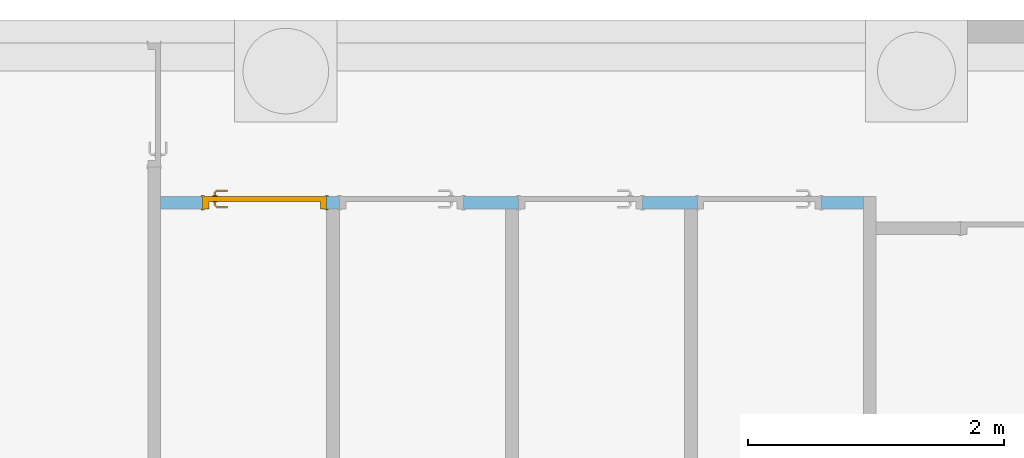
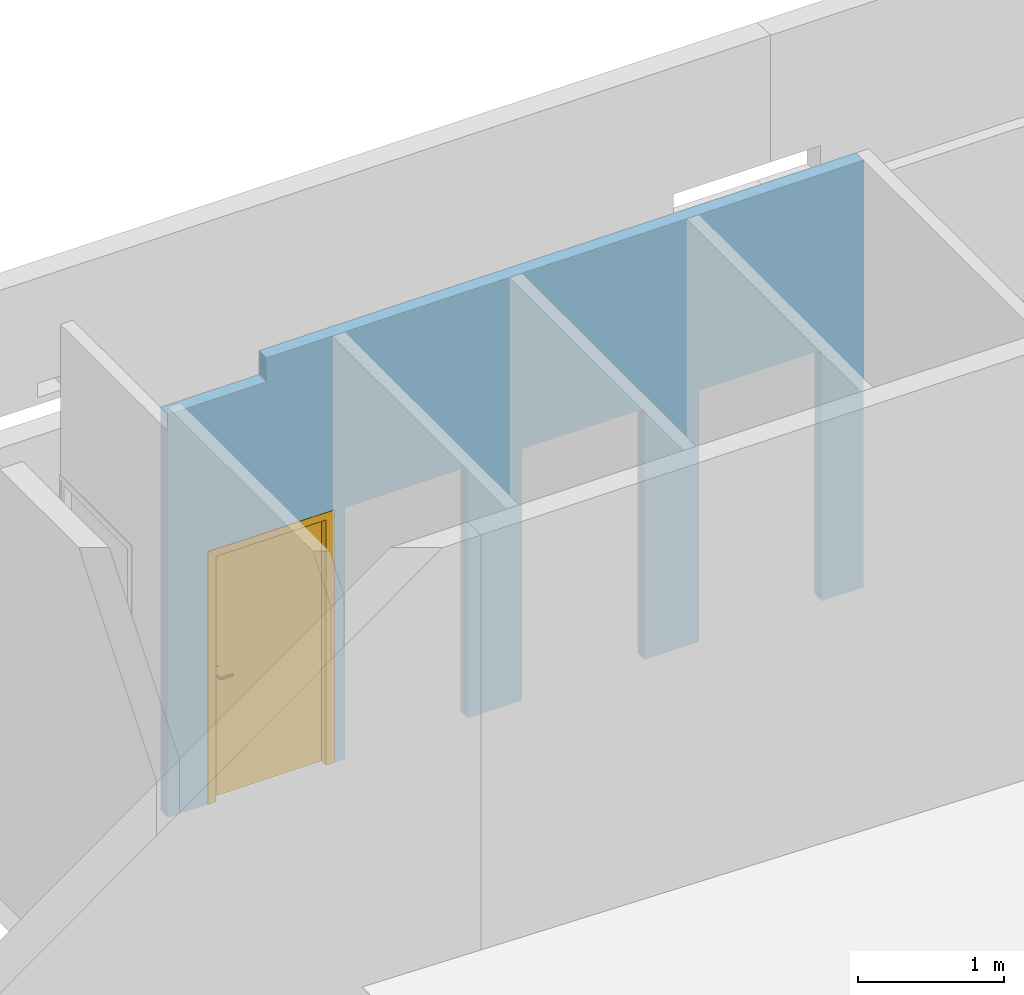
# One storey, part 5 of 14: 1 door, 4 openings, plus 1 element that does not belong to this part.
"""IFC2X3 building model written with IfcOpenShell, lengths in centimetres."""

from ifc_helpers import new_model, entity, si_unit, converted_unit, derived_unit, direction, frame, frame_2d, origin, place, context, subcontext, project, spatial, polyline, rectangle, extrude, clip, bounded_halfspace, faceted_brep, source, transform, mapped, material, material_list, layer, layer_set, layer_usage, type_object, type_shapes, element, fill, save


model = new_model("IFC2X3")

# Units and contexts
model_context = context("Model", 3, precision=0.001, world=origin(), true_north=direction((6.12303176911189e-17, 1.0)))
body_context = subcontext(model_context, "Body", "Model", "MODEL_VIEW")
ifc_project = project(units=[si_unit("LENGTHUNIT", "METRE", prefix="CENTI"), si_unit("AREAUNIT", "SQUARE_METRE"), si_unit("VOLUMEUNIT", "CUBIC_METRE"), converted_unit("PLANEANGLEUNIT", "DEGREE", entity("IfcRatioMeasure", 0.0174532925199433), si_unit("PLANEANGLEUNIT", "RADIAN"), dimensions=[0, 0, 0, 0, 0, 0, 0]), si_unit("MASSUNIT", "GRAM", prefix="KILO"), derived_unit("MASSDENSITYUNIT", [(si_unit("MASSUNIT", "GRAM", prefix="KILO"), 1), (si_unit("LENGTHUNIT", "METRE"), -3)]), si_unit("TIMEUNIT", "SECOND"), si_unit("FREQUENCYUNIT", "HERTZ"), si_unit("THERMODYNAMICTEMPERATUREUNIT", "DEGREE_CELSIUS"), derived_unit("THERMALTRANSMITTANCEUNIT", [(si_unit("MASSUNIT", "GRAM", prefix="KILO"), 1), (si_unit("THERMODYNAMICTEMPERATUREUNIT", "KELVIN"), -1), (si_unit("TIMEUNIT", "SECOND"), -3)]), derived_unit("VOLUMETRICFLOWRATEUNIT", [(si_unit("LENGTHUNIT", "METRE"), 3), (si_unit("TIMEUNIT", "SECOND"), -1)]), si_unit("ELECTRICCURRENTUNIT", "AMPERE"), si_unit("ELECTRICVOLTAGEUNIT", "VOLT"), si_unit("POWERUNIT", "WATT"), si_unit("FORCEUNIT", "NEWTON"), si_unit("ILLUMINANCEUNIT", "LUX"), si_unit("LUMINOUSFLUXUNIT", "LUMEN"), si_unit("LUMINOUSINTENSITYUNIT", "CANDELA"), derived_unit("USERDEFINED", [(si_unit("MASSUNIT", "GRAM", prefix="KILO"), -1), (si_unit("LENGTHUNIT", "METRE"), -2), (si_unit("TIMEUNIT", "SECOND"), 3), (si_unit("LUMINOUSFLUXUNIT", "LUMEN"), 1)]), derived_unit("LINEARVELOCITYUNIT", [(si_unit("LENGTHUNIT", "METRE"), 1), (si_unit("TIMEUNIT", "SECOND"), -1)]), si_unit("PRESSUREUNIT", "PASCAL"), derived_unit("USERDEFINED", [(si_unit("LENGTHUNIT", "METRE"), -2), (si_unit("MASSUNIT", "GRAM", prefix="KILO"), 1), (si_unit("TIMEUNIT", "SECOND"), -2)])], contexts=[model_context])

# Site, building, storey
site_placement = place(None, origin())
site = spatial("IfcSite", under=ifc_project, at=site_placement, Name="Default", CompositionType="ELEMENT")
building_placement = place(site_placement, origin())
building = spatial("IfcBuilding", under=site, at=building_placement, Name="CAGE 03", CompositionType="ELEMENT")
storey_placement = place(building_placement, frame((0.0, 0.0, -42.0)))
storey = spatial("IfcBuildingStorey", under=building, at=storey_placement, Name="+3.58", CompositionType="ELEMENT", Elevation=-42.0000000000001)

# Wall, openings, door
ifc_material_1 = material(Name="Bloc béton")
ifc_layer = layer(ifc_material_1, 10.0)
ifc_layer_set = layer_set([ifc_layer], Name="Mur de base:Int. Parpaing 100 mm")
ifc_layer_usage = layer_usage(ifc_layer_set, "AXIS2", "NEGATIVE", 5.0)
wall_type = type_object("IfcWallType", Name="Mur de base:Int. Parpaing 100 mm", PredefinedType="STANDARD", material=ifc_layer_set)
wall_placement = place(storey_placement, frame((9206.36582014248, 5150.66066607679, 0.0)))
wall = element("IfcWallStandardCase", 1, at=wall_placement, inside=storey, type_object=wall_type, material=ifc_layer_usage, Name="Mur de base:Int. Parpaing 100 mm", ObjectType="Mur de base:Int. Parpaing 100 mm", context=body_context, shape_type="Clipping", body=[
    clip(clip(extrude(rectangle(XDim=549.999999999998, YDim=9.99999999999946, at=frame_2d((274.999999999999, 4.04121180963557e-14), x_axis=(-1.0, 0.0))), origin(), (0.0, 0.0, 1.0), 357.0), bounded_halfspace(frame((78.0, -5.0, 337.0), z_axis=(0.0, 0.0, -1.0), x_axis=(0.0, -1.0, 0.0)), True, frame((78.0, -5.0, 337.0), z_axis=(0.0, 0.0, -1.0), x_axis=(0.0, -1.0, 0.0)), polyline([(0.0, 0.0), (0.0, 78.0), (-10.0, 78.0), (-10.0, 0.0), (0.0, 0.0)]))), bounded_halfspace(frame((78.0, 5.0, 337.0), z_axis=(1.0, 0.0, 0.0), x_axis=(0.0, 0.0, 1.0)), True, frame((78.0, 5.0, 337.0), z_axis=(1.0, 0.0, 0.0), x_axis=(0.0, 0.0, 1.0)), polyline([(0.0, 0.0), (20.0, 0.0), (20.0, 10.0), (0.0, 10.0), (0.0, 0.0)]))),
])
opening_1_placement = place(wall_placement, frame((420.0, -5.0, 0.0)))
element("IfcOpeningElement", 2, at=opening_1_placement, cuts=wall, Name="Int. Simple:HB93:1", ObjectType="Opening", context=body_context, shape_type="SweptSolid", body=[
    extrude(rectangle(XDim=210.000000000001, YDim=96.9999999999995, at=frame_2d((105.000000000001, 48.4999999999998), x_axis=(1.0, 0.0))), frame((0.0, 0.0, 0.0), z_axis=(0.0, 1.0, 0.0), x_axis=(0.0, 0.0, 1.0)), (0.0, 0.0, 1.0), 10.0),
])
opening_2_placement = place(wall_placement, frame((280.0, -5.0, 0.0)))
element("IfcOpeningElement", 3, at=opening_2_placement, cuts=wall, Name="Int. Simple:HB93:1", ObjectType="Opening", context=body_context, shape_type="SweptSolid", body=[
    extrude(rectangle(XDim=210.000000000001, YDim=96.9999999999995, at=frame_2d((105.000000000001, 48.4999999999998), x_axis=(1.0, 0.0))), frame((0.0, 0.0, 0.0), z_axis=(0.0, 1.0, 0.0), x_axis=(0.0, 0.0, 1.0)), (0.0, 0.0, 1.0), 10.0),
])
opening_3_placement = place(wall_placement, frame((33.0, -5.0, 0.0)))
opening_3 = element("IfcOpeningElement", 4, at=opening_3_placement, cuts=wall, Name="Int. Simple:HB93:1", ObjectType="Opening", context=body_context, shape_type="SweptSolid", body=[
    extrude(rectangle(XDim=210.000000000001, YDim=96.9999999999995, at=frame_2d((105.000000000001, 48.4999999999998), x_axis=(1.0, 0.0))), frame((0.0, 0.0, 0.0), z_axis=(0.0, 1.0, 0.0), x_axis=(0.0, 0.0, 1.0)), (0.0, 0.0, 1.0), 10.0),
])
opening_4_placement = place(wall_placement, frame((140.0, -5.0, 0.0)))
element("IfcOpeningElement", 5, at=opening_4_placement, cuts=wall, Name="Int. Simple:HB93:1", ObjectType="Opening", context=body_context, shape_type="SweptSolid", body=[
    extrude(rectangle(XDim=210.000000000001, YDim=96.9999999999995, at=frame_2d((105.000000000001, 48.4999999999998), x_axis=(1.0, 0.0))), frame((0.0, 0.0, 0.0), z_axis=(0.0, 1.0, 0.0), x_axis=(0.0, 0.0, 1.0)), (0.0, 0.0, 1.0), 10.0),
])
ifc_material_2 = material(Name="Finition Peinture - Blanc satiné")
ifc_material_3 = material(Name="Bois - Panneau de porte")
ifc_material_4 = material(Name="Bois - Cadre de porte")
ifc_material_list_1 = material_list([ifc_material_2, ifc_material_3, ifc_material_4])
ifc_material_list_2 = material_list([ifc_material_2, ifc_material_3, ifc_material_4])
door_style = type_object("IfcDoorStyle", Name="HB93", ConstructionType="NOTDEFINED", OperationType="SINGLE_SWING_RIGHT", ParameterTakesPrecedence=False, Sizeable=False, material=ifc_material_list_2)
shared_shape = source(origin(), body_context, "Body", "Brep", [
    faceted_brep([(96.5000000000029, -0.500000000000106, 87.0), (96.5000000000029, -0.500000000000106, 108.0), (95.535276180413, -0.500000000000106, 108.399601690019), (94.5000000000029, -0.500000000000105, 108.535898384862), (93.4647238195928, -0.500000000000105, 108.399601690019), (92.5000000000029, -0.500000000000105, 108.0), (92.5000000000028, -0.500000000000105, 87.0), (93.4647238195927, -0.500000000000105, 86.6003983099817), (94.5000000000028, -0.500000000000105, 86.464101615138), (95.5352761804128, -0.500000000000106, 86.6003983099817), (96.5000000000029, 0.0, 108.0), (96.5000000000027, 0.0, 87.0), (95.5352761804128, 0.0, 86.6003983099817), (94.5000000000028, 0.0, 86.464101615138), (93.4647238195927, 0.0, 86.6003983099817), (92.5000000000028, 0.0, 87.0), (92.5000000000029, 0.0, 108.0), (93.4647238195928, 0.0, 108.399601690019), (94.5000000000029, 0.0, 108.535898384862), (95.535276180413, 0.0, 108.399601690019)], [[[0, 1, 2, 3, 4, 5, 6, 7, 8, 9]], [[10, 11, 12, 13, 14, 15, 16, 17, 18, 19]], [[9, 12, 11, 0]], [[8, 13, 12, 9]], [[7, 14, 13, 8]], [[7, 6, 15, 14]], [[15, 6, 5, 16]], [[4, 17, 16, 5]], [[3, 18, 17, 4]], [[2, 19, 18, 3]], [[2, 1, 10, 19]], [[11, 10, 1, 0]]]),
    faceted_brep([(96.5000000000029, 4.0, 87.0), (96.5000000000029, 4.0, 108.0), (95.535276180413, 4.0, 108.399601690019), (94.5000000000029, 4.0, 108.535898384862), (93.4647238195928, 4.0, 108.399601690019), (92.500000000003, 4.0, 108.0), (92.5000000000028, 4.0, 87.0), (93.4647238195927, 4.0, 86.6003983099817), (94.5000000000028, 4.0, 86.464101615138), (95.5352761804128, 4.0, 86.6003983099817), (94.5000000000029, 4.49999999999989, 108.535898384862), (95.535276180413, 4.49999999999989, 108.399601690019), (96.5000000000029, 4.49999999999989, 108.0), (96.5000000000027, 4.49999999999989, 87.0), (95.5352761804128, 4.49999999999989, 86.6003983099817), (94.5000000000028, 4.49999999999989, 86.464101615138), (93.4647238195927, 4.49999999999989, 86.6003983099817), (92.5000000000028, 4.49999999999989, 87.0), (92.5000000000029, 4.49999999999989, 108.0), (93.4647238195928, 4.49999999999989, 108.399601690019)], [[[0, 1, 2, 3, 4, 5, 6, 7, 8, 9]], [[10, 11, 12, 13, 14, 15, 16, 17, 18, 19]], [[4, 19, 18, 5]], [[3, 10, 19, 4]], [[2, 11, 10, 3]], [[2, 1, 12, 11]], [[13, 12, 1, 0]], [[9, 14, 13, 0]], [[8, 15, 14, 9]], [[7, 16, 15, 8]], [[7, 6, 17, 16]], [[17, 6, 5, 18]]]),
    faceted_brep([(94.2974701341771, -0.50000000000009, 100.778044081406), (94.7025298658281, -0.500000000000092, 100.778044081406), (95.100000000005, -0.500000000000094, 100.699999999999), (95.100000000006, -0.500000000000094, 99.2999999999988), (94.7025298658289, -0.500000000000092, 99.221955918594), (94.297470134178, -0.50000000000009, 99.2219559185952), (93.9000000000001, -0.500000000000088, 99.3000000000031), (93.9000000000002, -0.500000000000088, 100.7), (94.7025298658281, -3.10045754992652, 100.778044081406), (95.1000000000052, -3.26509507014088, 100.7), (94.2974701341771, -2.93267631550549, 100.778044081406), (92.9298602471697, -4.30028620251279, 100.778044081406), (93.0976414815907, -4.70534593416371, 100.778044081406), (93.9000000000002, -2.76803879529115, 100.7), (93.9000000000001, -2.76803879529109, 99.3000000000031), (94.297470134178, -2.93267631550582, 99.2219559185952), (94.7025298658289, -3.10045754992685, 99.221955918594), (93.0976414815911, -4.70534593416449, 99.221955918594), (92.9298602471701, -4.30028620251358, 99.2219559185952), (95.100000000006, -3.26509507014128, 99.2999999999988), (93.2622790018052, -5.1028160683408, 100.7), (92.7652227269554, -3.90281606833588, 100.7), (92.7652227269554, -3.90281606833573, 99.3000000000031), (93.2622790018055, -5.10281606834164, 99.2999999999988), (84.4981359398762, -5.10281606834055, 100.7), (84.4981359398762, -4.70534593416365, 100.778044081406), (84.4981359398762, -4.30028620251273, 100.778044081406), (84.4981359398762, -3.90281606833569, 100.699999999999), (84.4981359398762, -3.90281606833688, 99.3000000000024), (84.4981359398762, -4.30028620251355, 99.2219559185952), (84.4981359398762, -4.70534593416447, 99.221955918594), (84.4981359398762, -5.10281606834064, 99.2999999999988), (88.7139980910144, -4.5028160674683, 100.78786867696), (89.2692302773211, -5.1028160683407, 100.7), (88.6316793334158, -3.9028160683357, 100.7), (88.631679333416, -3.90281606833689, 99.3000000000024), (88.7139981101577, -4.50281607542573, 99.2121313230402), (89.2692310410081, -5.10281606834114, 99.2999999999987)], [[[0, 1, 2, 3, 4, 5, 6, 7]], [[2, 1, 8, 9]], [[1, 0, 10, 11, 12, 8]], [[0, 7, 13, 10]], [[14, 13, 7, 6]], [[5, 15, 14, 6]], [[5, 4, 16, 17, 18, 15]], [[3, 19, 16, 4]], [[9, 19, 3, 2]], [[9, 8, 12, 20]], [[10, 13, 21, 11]], [[22, 21, 13, 14]], [[14, 15, 18, 22]], [[16, 19, 23, 17]], [[20, 23, 19, 9]], [[24, 25, 26, 27, 28, 29, 30, 31]], [[32, 25, 33]], [[33, 25, 24]], [[33, 20, 12]], [[11, 34, 32]], [[34, 11, 21]], [[27, 26, 34]], [[32, 26, 25]], [[32, 34, 26]], [[32, 33, 12]], [[11, 32, 12]], [[21, 22, 35, 28, 27, 34]], [[36, 29, 35]], [[30, 36, 37]], [[18, 35, 22]], [[29, 28, 35]], [[30, 37, 31]], [[37, 17, 23]], [[36, 17, 37]], [[36, 18, 17]], [[36, 35, 18]], [[29, 36, 30]], [[23, 20, 33, 24, 31, 37]]]),
    faceted_brep([(94.2974701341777, 4.49999999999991, 99.2219559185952), (94.7025298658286, 4.49999999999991, 99.221955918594), (95.1000000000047, 4.4999999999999, 99.2999999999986), (95.1000000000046, 4.4999999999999, 100.7), (94.7025298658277, 4.49999999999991, 100.778044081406), (94.2974701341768, 4.49999999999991, 100.778044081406), (93.8999999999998, 4.49999999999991, 100.7), (93.900000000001, 4.49999999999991, 99.3000000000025), (93.8999999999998, 6.7485204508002, 100.7), (93.8999999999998, 6.74852045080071, 99.3000000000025), (94.2974701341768, 6.91315797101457, 100.778044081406), (94.7025298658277, 7.0809392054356, 100.778044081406), (93.0838906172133, 8.69957845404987, 100.778044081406), (92.9161093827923, 8.29451872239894, 100.778044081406), (95.1000000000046, 7.24557672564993, 100.7), (95.1000000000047, 7.24557672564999, 99.2999999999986), (94.7025298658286, 7.08093920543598, 99.221955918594), (94.2974701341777, 6.91315797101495, 99.2219559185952), (92.9161093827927, 8.29451872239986, 99.2219559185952), (93.0838906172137, 8.69957845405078, 99.221955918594), (92.751471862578, 7.89704858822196, 100.7), (92.7514718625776, 7.89704858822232, 99.3000000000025), (93.2485281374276, 9.09704858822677, 100.7), (93.2485281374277, 9.09704858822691, 99.2999999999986), (84.4954216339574, 8.29451872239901, 100.778044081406), (84.4954216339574, 8.69957845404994, 100.778044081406), (84.4954216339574, 9.09704858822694, 100.7), (84.4954216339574, 9.09704858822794, 99.2999999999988), (84.4954216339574, 8.6995784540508, 99.221955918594), (84.4954216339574, 8.29451872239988, 99.2219559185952), (84.4954216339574, 7.89704858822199, 99.3000000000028), (84.4954216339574, 7.89704858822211, 100.7), (88.6234467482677, 7.89704858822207, 100.7), (88.6234479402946, 7.89704858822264, 99.3000000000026), (88.7057655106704, 8.49704858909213, 100.78786867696), (89.255479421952, 9.09704858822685, 100.7), (89.2554795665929, 9.09704858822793, 99.2999999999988), (88.7057654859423, 8.49704858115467, 99.2121313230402)], [[[0, 1, 2, 3, 4, 5, 6, 7]], [[8, 9, 7, 6]], [[5, 10, 8, 6]], [[5, 4, 11, 12, 13, 10]], [[3, 14, 11, 4]], [[14, 3, 2, 15]], [[2, 1, 16, 15]], [[1, 0, 17, 18, 19, 16]], [[0, 7, 9, 17]], [[20, 21, 9, 8]], [[8, 10, 13, 20]], [[14, 22, 12, 11]], [[23, 22, 14, 15]], [[15, 16, 19, 23]], [[17, 9, 21, 18]], [[24, 25, 26, 27, 28, 29, 30, 31]], [[21, 20, 32, 31, 30, 33]], [[34, 24, 32]], [[25, 34, 35]], [[13, 32, 20]], [[24, 31, 32]], [[25, 35, 26]], [[35, 12, 22]], [[34, 12, 35]], [[34, 13, 12]], [[34, 32, 13]], [[24, 34, 25]], [[22, 23, 36, 27, 26, 35]], [[37, 28, 36]], [[36, 28, 27]], [[36, 23, 19]], [[18, 33, 37]], [[33, 18, 21]], [[30, 29, 33]], [[37, 29, 28]], [[37, 33, 29]], [[37, 36, 19]], [[18, 37, 19]]]),
    faceted_brep([(100.500000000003, 4.0, 206.5), (100.500000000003, 4.0, 0.0), (10.5000000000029, 4.0, 0.0), (10.5000000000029, 4.0, 206.5), (100.500000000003, 0.0, 206.5), (10.5000000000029, 0.0, 206.5), (10.5000000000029, 0.0, 0.0), (100.500000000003, 0.0, 0.0)], [[[0, 1, 2, 3]], [[4, 5, 6, 7]], [[3, 5, 4, 0]], [[2, 6, 5, 3]], [[1, 7, 6, 2]], [[0, 4, 7, 1]]]),
    faceted_brep([(104.0, 0.0, 0.0), (100.500000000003, 0.0, 0.0), (100.500000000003, 4.0, 0.0), (99.0, 4.0, 0.0), (99.0, 10.0, 0.0), (104.0, 10.0, 0.0), (104.0, 10.0, 210.0), (104.0, 0.0, 210.0), (99.0, 10.0, 205.0), (12.0, 10.0, 205.0), (12.0, 10.0, 0.0), (7.0, 10.0, 0.0), (7.0, 10.0, 210.0), (99.0, 4.0, 205.0), (100.500000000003, 4.0, 206.5), (10.5000000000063, 4.0, 206.5), (10.5000000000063, 4.0, 0.0), (12.0, 4.0, 0.0), (12.0, 4.0, 205.0), (100.500000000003, 0.0, 206.5), (7.0, 0.0, 210.0), (7.0, 0.0, 0.0), (10.5000000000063, 0.0, 0.0), (10.5000000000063, 0.0, 206.5)], [[[0, 1, 2, 3, 4, 5]], [[5, 6, 7, 0]], [[4, 8, 9, 10, 11, 12, 6, 5]], [[3, 13, 8, 4]], [[2, 14, 15, 16, 17, 18, 13, 3]], [[1, 19, 14, 2]], [[0, 7, 20, 21, 22, 23, 19, 1]], [[12, 11, 21, 20]], [[21, 11, 10, 17, 16, 22]], [[18, 17, 10, 9]], [[23, 22, 16, 15]], [[6, 12, 20, 7]], [[13, 18, 9, 8]], [[19, 23, 15, 14]]]),
    faceted_brep([(102.500000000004, 10.0, 0.0), (102.500000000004, 10.5000000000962, 0.0), (105.500000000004, 10.5000000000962, 0.0), (105.500000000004, 10.0, 0.0), (105.500000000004, 10.0, 211.500000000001), (5.50000000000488, 10.0, 211.500000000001), (5.50000000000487, 10.0, 0.0), (8.50000000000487, 10.0, 0.0), (8.50000000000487, 10.0, 208.500000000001), (102.500000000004, 10.0, 208.500000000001), (105.500000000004, 10.5000000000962, 211.500000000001), (102.500000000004, 10.5000000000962, 208.500000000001), (8.50000000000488, 10.5000000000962, 208.500000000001), (8.50000000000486, 10.5000000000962, 0.0), (5.50000000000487, 10.5000000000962, 0.0), (5.50000000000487, 10.5000000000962, 211.500000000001)], [[[0, 1, 2, 3]], [[3, 4, 5, 6, 7, 8, 9, 0]], [[2, 10, 4, 3]], [[1, 11, 12, 13, 14, 15, 10, 2]], [[0, 9, 11, 1]], [[7, 6, 14, 13]], [[8, 7, 13, 12]], [[15, 14, 6, 5]], [[10, 15, 5, 4]], [[9, 8, 12, 11]]]),
    faceted_brep([(105.500000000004, -0.5, 0.0), (105.500000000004, -0.5, 211.500000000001), (5.50000000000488, -0.5, 211.500000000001), (5.50000000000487, -0.5, 0.0), (8.50000000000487, -0.5, 0.0), (8.50000000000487, -0.5, 208.500000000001), (102.500000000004, -0.5, 208.500000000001), (102.500000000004, -0.5, 0.0), (105.500000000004, 0.0, 0.0), (105.500000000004, 0.0, 211.500000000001), (102.500000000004, 0.0, 0.0), (102.500000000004, 0.0, 208.500000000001), (8.50000000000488, 0.0, 208.500000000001), (8.50000000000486, 0.0, 0.0), (5.50000000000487, 0.0, 0.0), (5.50000000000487, 0.0, 211.500000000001)], [[[0, 1, 2, 3, 4, 5, 6, 7]], [[8, 9, 1, 0]], [[10, 11, 12, 13, 14, 15, 9, 8]], [[7, 6, 11, 10]], [[5, 4, 13, 12]], [[15, 14, 3, 2]], [[9, 15, 2, 1]], [[6, 5, 12, 11]], [[4, 3, 14, 13]], [[7, 10, 8, 0]]]),
])
type_shapes(door_style, [shared_shape])
door_placement = place(opening_3_placement, frame((104.0, 10.0, 0.0), z_axis=(0.0, 0.0, 1.0), x_axis=(-1.0, 0.0, 0.0)))
door = element("IfcDoor", 6, at=door_placement, inside=storey, type_object=door_style, material=ifc_material_list_1, Name="Int. Simple:HB93", ObjectType="HB93", OverallHeight=210.000000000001, OverallWidth=96.9999999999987, context=body_context, shape_type="MappedRepresentation", body=[
    mapped(shared_shape, transform((0.0, 0.0, 0.0), scale=1.0)),
])
fill(opening_3, door)

save(model, "model.ifc")
